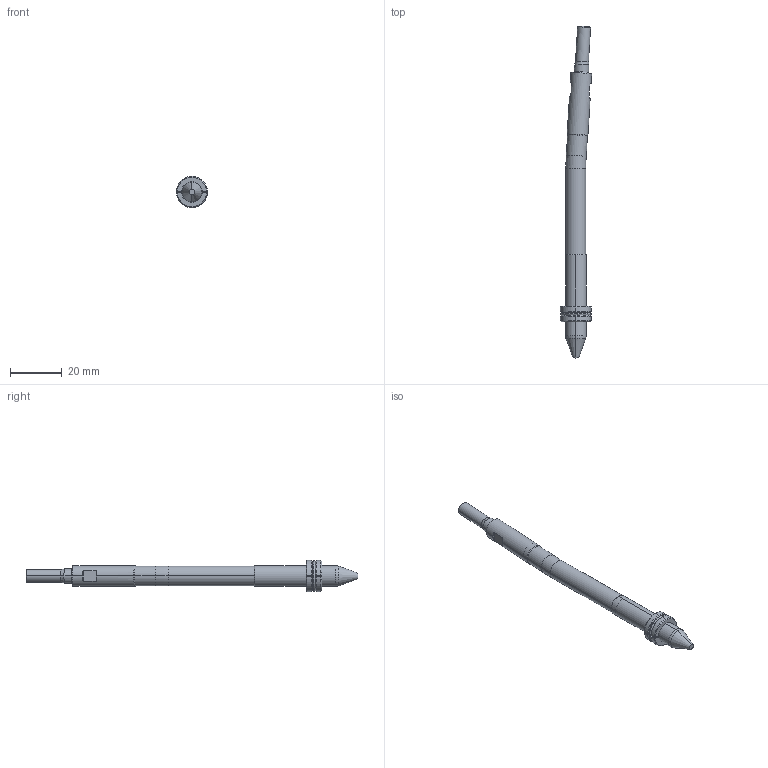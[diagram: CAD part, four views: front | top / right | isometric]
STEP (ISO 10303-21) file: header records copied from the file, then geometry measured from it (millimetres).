
FILE_DESCRIPTION (( 'STEP AP214' ), '1' );
FILE_NAME ('WP080030-INJ 3,5°.STEP', '2021-03-19T15:19:22', ( '' ), ( '' ), 'SwSTEP 2.0', 'SolidWorks 2019', '' );
FILE_SCHEMA (( 'AUTOMOTIVE_DESIGN' ));
Length unit declared in the file: millimetre
Products named in the file (6): Web-WP08-F_WP08-F-OFF 3,5ø; Web-WP08-1; WP080030-INJ 3,5°; Web-WP08-2; Web-WP08-6; Web-WP08-7
Assembly tree (5 placements, depth 2):
  WP080030-INJ 3,5°
    Web-WP08-1
    Web-WP08-F_WP08-F-OFF 3,5ø
    Web-WP08-2
    Web-WP08-6
    Web-WP08-7
Bounding box: 12.09 x 128.04 x 12 mm (x, y, z)
Volume: 5841.3 mm3; surface area: 4095.3 mm2
Topology: 6 solids, 6 shells, 121 faces, 278 edges, 172 vertices
Faces by surface type: cylinder 36, plane 29, cone 28, torus 28
Entity records: 3957 total; most frequent: CARTESIAN_POINT 763, DIRECTION 648, ORIENTED_EDGE 556, AXIS2_PLACEMENT_3D 281, EDGE_CURVE 278, VERTEX_POINT 172, CIRCLE 152, EDGE_LOOP 126
